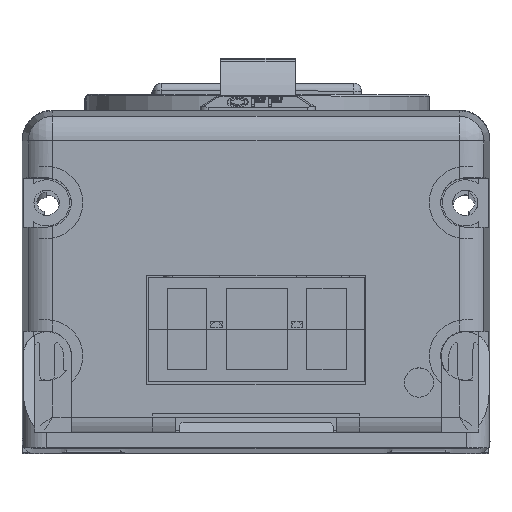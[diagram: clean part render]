
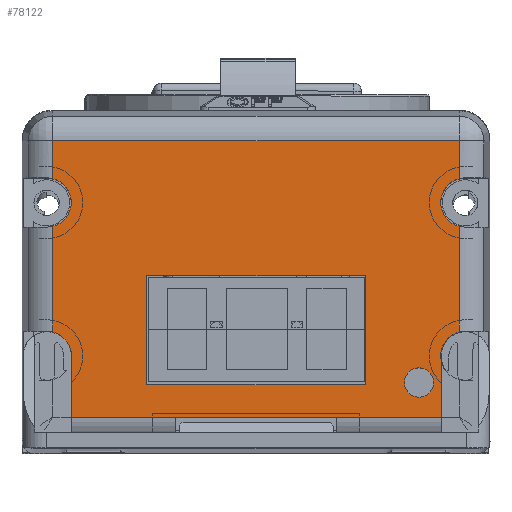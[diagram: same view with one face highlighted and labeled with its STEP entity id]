
A CAD part, top view. The second image highlights one B-rep face of the part: STEP entity #78122.
In plain terms, the highlighted planar face has unit normal (0, 0, 1).
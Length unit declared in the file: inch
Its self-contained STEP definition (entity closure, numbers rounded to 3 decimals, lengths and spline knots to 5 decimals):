
#74777=CARTESIAN_POINT('',(0.54235,0.01688,16.90945));
#74778=VERTEX_POINT('',#74777);
#74785=CARTESIAN_POINT('',(-0.57969,0.01688,16.90945));
#74786=VERTEX_POINT('',#74785);
#74787=CARTESIAN_POINT('',(-0.57969,0.01688,16.90945));
#74788=DIRECTION('',(1.0,0.,0.0));
#74789=VECTOR('',#74788,1.12205);
#74790=LINE('',#74787,#74789);
#74791=EDGE_CURVE('',#74786,#74778,#74790,.T.);
#74815=CARTESIAN_POINT('',(0.54235,-0.54414,16.90945));
#74816=VERTEX_POINT('',#74815);
#74823=CARTESIAN_POINT('',(0.54235,0.01688,16.90945));
#74824=DIRECTION('',(0.,-1.0,0.0));
#74825=VECTOR('',#74824,0.56102);
#74826=LINE('',#74823,#74825);
#74827=EDGE_CURVE('',#74778,#74816,#74826,.T.);
#74840=CARTESIAN_POINT('',(0.93172,-0.7095,16.90945));
#74841=VERTEX_POINT('',#74840);
#74856=CARTESIAN_POINT('',(0.93172,-0.41989,16.90945));
#74857=VERTEX_POINT('',#74856);
#75279=CARTESIAN_POINT('',(-0.96592,-0.7095,16.90945));
#75280=VERTEX_POINT('',#75279);
#77503=CARTESIAN_POINT('',(-0.99761,-0.31276,16.90945));
#77504=VERTEX_POINT('',#77503);
#77539=CARTESIAN_POINT('',(-0.96592,-0.39557,16.90945));
#77540=VERTEX_POINT('',#77539);
#77547=CARTESIAN_POINT('',(-1.08993,-0.39557,16.90945));
#77548=DIRECTION('',(0.,0.,-1.0));
#77549=DIRECTION('',(0.802,-0.598,0.));
#77550=AXIS2_PLACEMENT_3D('',#77547,#77548,#77549);
#77551=CIRCLE('',#77550,0.12402);
#77552=EDGE_CURVE('',#77504,#77540,#77551,.T.);
#77704=CARTESIAN_POINT('',(-0.96592,-0.39557,16.90945));
#77705=DIRECTION('',(0.,-1.0,0.0));
#77706=VECTOR('',#77705,0.31393);
#77707=LINE('',#77704,#77706);
#77708=EDGE_CURVE('',#77540,#75280,#77707,.T.);
#77744=CARTESIAN_POINT('',(0.93172,-0.7095,16.90945));
#77745=DIRECTION('',(0.,1.0,0.0));
#77746=VECTOR('',#77745,0.28961);
#77747=LINE('',#77744,#77746);
#77748=EDGE_CURVE('',#74841,#74857,#77747,.T.);
#77941=CARTESIAN_POINT('',(-1.06198,-0.27308,16.90945));
#77942=VERTEX_POINT('',#77941);
#77943=CARTESIAN_POINT('',(-1.09308,-0.39557,16.90945));
#77944=DIRECTION('',(0.,0.,-1.0));
#77945=DIRECTION('',(1.0,0.,0.));
#77946=AXIS2_PLACEMENT_3D('',#77943,#77944,#77945);
#77947=CIRCLE('',#77946,0.12638);
#77948=EDGE_CURVE('',#77942,#77504,#77947,.T.);
#77995=CARTESIAN_POINT('',(-0.01867,-0.01038,16.90945));
#77996=DIRECTION('',(0.0,0.0,-1.0));
#77997=DIRECTION('',(-1.0,0.,0.0));
#77998=AXIS2_PLACEMENT_3D('',#77995,#77996,#77997);
#77999=PLANE('',#77998);
#78000=ORIENTED_EDGE('',*,*,#77748,.T.);
#78001=CARTESIAN_POINT('',(1.02464,-0.27308,16.90945));
#78002=VERTEX_POINT('',#78001);
#78003=CARTESIAN_POINT('',(1.05574,-0.39557,16.90945));
#78004=DIRECTION('',(0.,0.,-1.0));
#78005=DIRECTION('',(-1.0,0.,0.));
#78006=AXIS2_PLACEMENT_3D('',#78003,#78004,#78005);
#78007=CIRCLE('',#78006,0.12638);
#78008=EDGE_CURVE('',#74857,#78002,#78007,.T.);
#78009=ORIENTED_EDGE('',*,*,#78008,.T.);
#78010=CARTESIAN_POINT('',(1.02464,0.26934,16.90945));
#78011=VERTEX_POINT('',#78010);
#78012=CARTESIAN_POINT('',(1.02464,0.26934,16.90945));
#78013=DIRECTION('',(0.,-1.0,0.0));
#78014=VECTOR('',#78013,0.54242);
#78015=LINE('',#78012,#78014);
#78016=EDGE_CURVE('',#78011,#78002,#78015,.T.);
#78017=ORIENTED_EDGE('',*,*,#78016,.F.);
#78018=CARTESIAN_POINT('',(1.02464,0.51432,16.90945));
#78019=VERTEX_POINT('',#78018);
#78020=CARTESIAN_POINT('',(1.05574,0.39183,16.90945));
#78021=DIRECTION('',(0.,0.,-1.0));
#78022=DIRECTION('',(-1.0,0.,0.));
#78023=AXIS2_PLACEMENT_3D('',#78020,#78021,#78022);
#78024=CIRCLE('',#78023,0.12638);
#78025=EDGE_CURVE('',#78011,#78019,#78024,.T.);
#78026=ORIENTED_EDGE('',*,*,#78025,.T.);
#78027=CARTESIAN_POINT('',(1.02464,0.70783,16.90945));
#78028=VERTEX_POINT('',#78027);
#78029=CARTESIAN_POINT('',(1.02464,0.70783,16.90945));
#78030=DIRECTION('',(0.,-1.0,0.0));
#78031=VECTOR('',#78030,0.1935);
#78032=LINE('',#78029,#78031);
#78033=EDGE_CURVE('',#78028,#78019,#78032,.T.);
#78034=ORIENTED_EDGE('',*,*,#78033,.F.);
#78035=CARTESIAN_POINT('',(-1.06198,0.70783,16.90945));
#78036=VERTEX_POINT('',#78035);
#78037=CARTESIAN_POINT('',(-1.06198,0.70783,16.90945));
#78038=DIRECTION('',(1.0,0.,0.0));
#78039=VECTOR('',#78038,2.08661);
#78040=LINE('',#78037,#78039);
#78041=EDGE_CURVE('',#78036,#78028,#78040,.T.);
#78042=ORIENTED_EDGE('',*,*,#78041,.F.);
#78043=CARTESIAN_POINT('',(-1.06198,0.51432,16.90945));
#78044=VERTEX_POINT('',#78043);
#78045=CARTESIAN_POINT('',(-1.06198,0.51432,16.90945));
#78046=DIRECTION('',(0.,1.0,0.0));
#78047=VECTOR('',#78046,0.1935);
#78048=LINE('',#78045,#78047);
#78049=EDGE_CURVE('',#78044,#78036,#78048,.T.);
#78050=ORIENTED_EDGE('',*,*,#78049,.F.);
#78051=CARTESIAN_POINT('',(-1.06198,0.26934,16.90945));
#78052=VERTEX_POINT('',#78051);
#78053=CARTESIAN_POINT('',(-1.09308,0.39183,16.90945));
#78054=DIRECTION('',(0.,0.,-1.0));
#78055=DIRECTION('',(1.0,0.,0.));
#78056=AXIS2_PLACEMENT_3D('',#78053,#78054,#78055);
#78057=CIRCLE('',#78056,0.12638);
#78058=EDGE_CURVE('',#78044,#78052,#78057,.T.);
#78059=ORIENTED_EDGE('',*,*,#78058,.T.);
#78060=CARTESIAN_POINT('',(-1.06198,-0.27308,16.90945));
#78061=DIRECTION('',(0.,1.0,0.0));
#78062=VECTOR('',#78061,0.54242);
#78063=LINE('',#78060,#78062);
#78064=EDGE_CURVE('',#77942,#78052,#78063,.T.);
#78065=ORIENTED_EDGE('',*,*,#78064,.F.);
#78066=ORIENTED_EDGE('',*,*,#77948,.T.);
#78067=ORIENTED_EDGE('',*,*,#77552,.T.);
#78068=ORIENTED_EDGE('',*,*,#77708,.T.);
#78069=CARTESIAN_POINT('',(-0.43206,-0.7095,16.90945));
#78070=VERTEX_POINT('',#78069);
#78071=CARTESIAN_POINT('',(-0.43206,-0.7095,16.90945));
#78072=DIRECTION('',(-1.0,0.,0.0));
#78073=VECTOR('',#78072,0.53386);
#78074=LINE('',#78071,#78073);
#78075=EDGE_CURVE('',#78070,#75280,#78074,.T.);
#78076=ORIENTED_EDGE('',*,*,#78075,.F.);
#78077=CARTESIAN_POINT('',(0.39471,-0.7095,16.90945));
#78078=VERTEX_POINT('',#78077);
#78079=CARTESIAN_POINT('',(-0.43206,-0.7095,16.90945));
#78080=DIRECTION('',(1.0,0.,0.0));
#78081=VECTOR('',#78080,0.82677);
#78082=LINE('',#78079,#78081);
#78083=EDGE_CURVE('',#78070,#78078,#78082,.T.);
#78084=ORIENTED_EDGE('',*,*,#78083,.T.);
#78085=CARTESIAN_POINT('',(0.93172,-0.7095,16.90945));
#78086=DIRECTION('',(-1.0,0.,0.0));
#78087=VECTOR('',#78086,0.53701);
#78088=LINE('',#78085,#78087);
#78089=EDGE_CURVE('',#74841,#78078,#78088,.T.);
#78090=ORIENTED_EDGE('',*,*,#78089,.F.);
#78091=EDGE_LOOP('',(#78000,#78009,#78017,#78026,#78034,#78042,#78050,#78059,#78065,#78066,#78067,#78068,#78076,#78084,#78090));
#78092=FACE_OUTER_BOUND('',#78091,.T.);
#78093=ORIENTED_EDGE('',*,*,#74791,.T.);
#78094=ORIENTED_EDGE('',*,*,#74827,.T.);
#78095=CARTESIAN_POINT('',(-0.57969,-0.54414,16.90945));
#78096=VERTEX_POINT('',#78095);
#78097=CARTESIAN_POINT('',(0.54235,-0.54414,16.90945));
#78098=DIRECTION('',(-1.0,0.,0.0));
#78099=VECTOR('',#78098,1.12205);
#78100=LINE('',#78097,#78099);
#78101=EDGE_CURVE('',#74816,#78096,#78100,.T.);
#78102=ORIENTED_EDGE('',*,*,#78101,.T.);
#78103=CARTESIAN_POINT('',(-0.57969,-0.54414,16.90945));
#78104=DIRECTION('',(0.,1.0,0.0));
#78105=VECTOR('',#78104,0.56102);
#78106=LINE('',#78103,#78105);
#78107=EDGE_CURVE('',#78096,#74786,#78106,.T.);
#78108=ORIENTED_EDGE('',*,*,#78107,.T.);
#78109=EDGE_LOOP('',(#78093,#78094,#78102,#78108));
#78110=FACE_BOUND('',#78109,.T.);
#78111=CARTESIAN_POINT('',(0.89261,-0.53202,16.90945));
#78112=VERTEX_POINT('',#78111);
#78113=CARTESIAN_POINT('',(0.81757,-0.53202,16.90945));
#78114=DIRECTION('',(0.,0.,-1.0));
#78115=DIRECTION('',(-1.0,0.,0.));
#78116=AXIS2_PLACEMENT_3D('',#78113,#78114,#78115);
#78117=CIRCLE('',#78116,0.07504);
#78118=EDGE_CURVE('',#78112,#78112,#78117,.T.);
#78119=ORIENTED_EDGE('',*,*,#78118,.T.);
#78120=EDGE_LOOP('',(#78119));
#78121=FACE_BOUND('',#78120,.T.);
#78122=ADVANCED_FACE('',(#78092,#78110,#78121),#77999,.F.);
